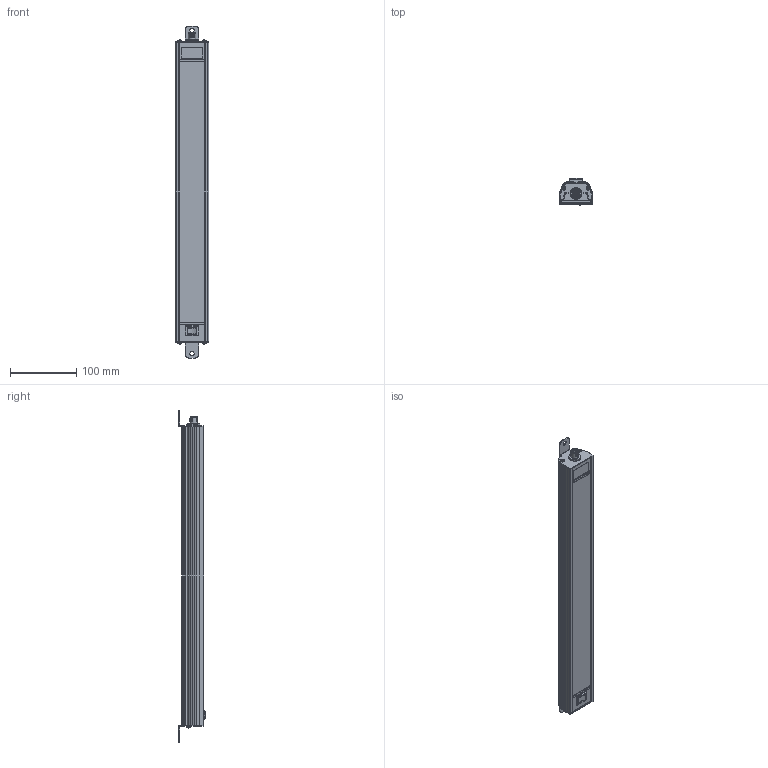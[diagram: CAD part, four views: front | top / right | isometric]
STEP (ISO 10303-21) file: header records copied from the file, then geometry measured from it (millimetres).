
FILE_DESCRIPTION (( 'STEP AP203' ), '1' );
FILE_NAME ('UV_LED_10 M12_24V_Schalter.STEP', '2024-07-19T10:07:43', ( '' ), ( '' ), 'SwSTEP 2.0', 'SolidWorks 2024', '' );
FILE_SCHEMA (( 'CONFIG_CONTROL_DESIGN' ));
Length unit declared in the file: millimetre
Products named in the file (10): Abdeckung_f. 1021_397mm; 00400295_Rahmen_Schalter_ohneFenster; 00590210_Blechschraube_DIN7981_2,9x9,5_brüniert; 00400294-Rahmen_Schalter; Befestigungswinkel_f_WorkLED_fixed; Befestigungswinkel_Phönix_f_WorkLED_fixed; 00370187-Einbausteckverb.SACC-E-4Con-M16; Aluprofil_WorkLED_SE_UV-323; UV_LED_10 M12_24V_Schalter; 00340082-Wippschalter_schwarz_Steck_4,8
Assembly tree (12 placements, depth 2):
  UV_LED_10 M12_24V_Schalter
    Aluprofil_WorkLED_SE_UV-323
    00400294-Rahmen_Schalter
    00400295_Rahmen_Schalter_ohneFenster
    00370187-Einbausteckverb.SACC-E-4Con-M16
    00590210_Blechschraube_DIN7981_2,9x9,5_brüniert  x4
    Abdeckung_f. 1021_397mm
    Befestigungswinkel_f_WorkLED_fixed
    Befestigungswinkel_Phönix_f_WorkLED_fixed
    00340082-Wippschalter_schwarz_Steck_4,8
Bounding box: 51.16 x 40.53 x 501.4 mm (x, y, z)
Volume: 190525.4 mm3; surface area: 231226.8 mm2
Topology: 13 solids, 13 shells, 957 faces, 2569 edges, 1648 vertices
Faces by surface type: plane 521, cylinder 318, bspline 99, cone 9, sphere 8, torus 2
Full cylindrical faces by diameter (mm): 0.5 x3, 0.9 x4, 1.4 x2, 2.9 x4, 3.2 x4, 4 x4, 5.6 x4, 6.4 x2, 10.7 x1, 10.9 x1
Entity records: 33031 total; most frequent: CARTESIAN_POINT 11382, ORIENTED_EDGE 4406, DIRECTION 4073, EDGE_CURVE 2203, VERTEX_POINT 1429, VECTOR 1381, LINE 1381, AXIS2_PLACEMENT_3D 1346
